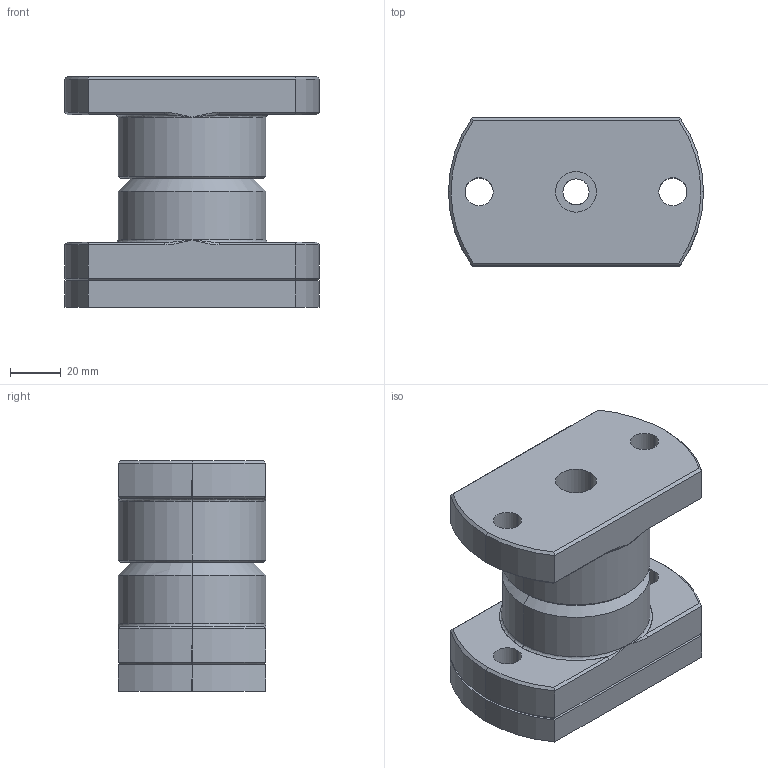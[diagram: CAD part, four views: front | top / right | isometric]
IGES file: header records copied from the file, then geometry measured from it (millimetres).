
Start section: START RECORD GO HERE.
Global section: file name: CFCCP10F.igs; native system: DASSAULT SYSTEMES CATIA V5 R20 - www.3ds.com; preprocessor: CATIA Version 5 Release 20 ; author: Utente; organization: NB04-ASUS; date: 20201027.205756; units: millimetre
Bounding box: 100 x 58 x 90.5 mm (x, y, z)
Surface area: 58731.7 mm2 (no closed solid volume)
Topology: 0 solids, 0 shells, 128 faces, 812 edges, 800 vertices
Faces by surface type: revolution 92, plane 28, bspline 8
